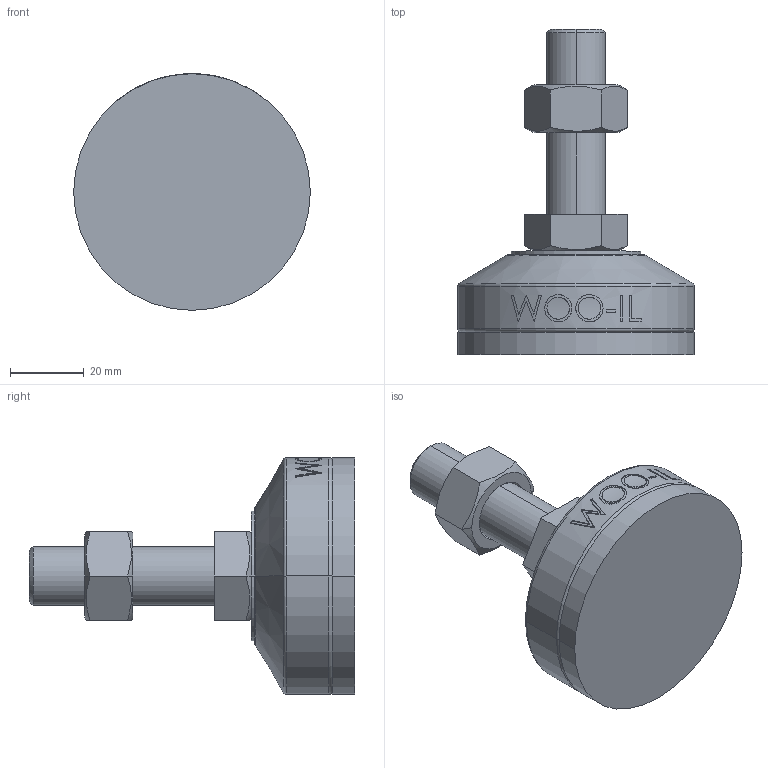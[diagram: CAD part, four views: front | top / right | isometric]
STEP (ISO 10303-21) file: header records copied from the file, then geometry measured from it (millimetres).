
FILE_DESCRIPTION (( 'STEP AP214' ), '1' );
FILE_NAME ('MFZR64-M16-50.step', '2021-03-29T06:56:27', ( '' ), ( '' ), 'SwSTEP 2.0', 'SolidWorks 2019', '' );
FILE_SCHEMA (( 'AUTOMOTIVE_DESIGN' ));
Length unit declared in the file: millimetre
Products named in the file (2): MFZR64-M16-50
Bounding box: 64 x 88 x 64 mm (x, y, z)
Volume: 97177.1 mm3; surface area: 23543.4 mm2
Topology: 4 solids, 4 shells, 103 faces, 235 edges, 150 vertices
Faces by surface type: plane 49, cylinder 18, bspline 16, cone 14, torus 6
Entity records: 4435 total; most frequent: CARTESIAN_POINT 2162, ORIENTED_EDGE 470, DIRECTION 417, EDGE_CURVE 235, AXIS2_PLACEMENT_3D 159, VERTEX_POINT 150, EDGE_LOOP 115, FACE_OUTER_BOUND 103
